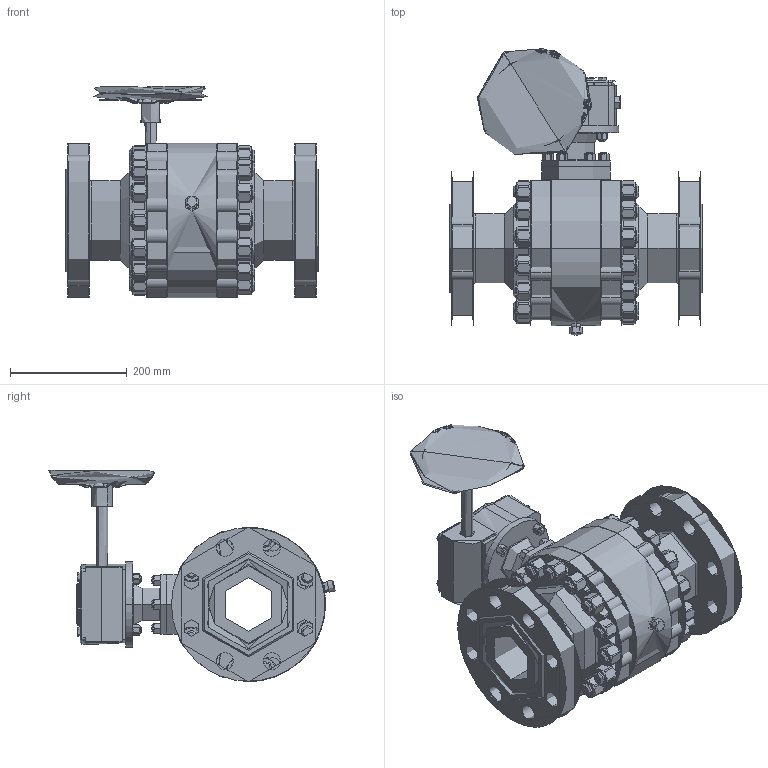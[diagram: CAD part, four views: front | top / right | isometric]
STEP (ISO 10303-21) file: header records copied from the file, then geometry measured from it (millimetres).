
FILE_DESCRIPTION(('STEP AP203'), '1');
FILE_NAME('ZARD 100.100.27.P.stp', '2013-12-09T05:59:57', ('UNSPECIFIED UNSPECIFIED'), ('UNSPECIFIED'), 'ASCON STEP Converter 1.3', 'Kompas 3D', '');
FILE_SCHEMA(('CONFIG_CONTROL_DESIGN','SUPPORT_RESOURCE_SCHEMA'));
Length unit declared in the file: millimetre
Products named in the file (1): 14
Bounding box: 432 x 490.77 x 362.5 mm (x, y, z)
Surface area: 1613309 mm2 (no closed solid volume)
Topology: 0 solids, 95 shells, 2648 faces, 6675 edges, 4146 vertices
Faces by surface type: cylinder 855, plane 744, cone 622, bspline 415, torus 12
Entity records: 185728 total; most frequent: CARTESIAN_POINT 126993, ORIENTED_EDGE 12669, DIRECTION 10714, EDGE_CURVE 6540, AXIS2_PLACEMENT_3D 4375, VERTEX_POINT 4094, EDGE_LOOP 2987, ADVANCED_FACE 2642
